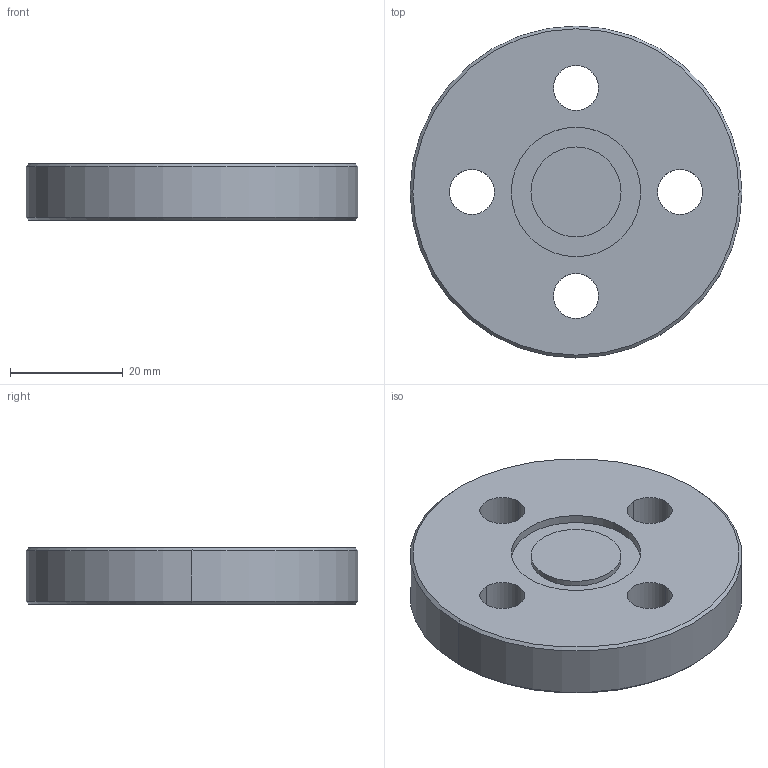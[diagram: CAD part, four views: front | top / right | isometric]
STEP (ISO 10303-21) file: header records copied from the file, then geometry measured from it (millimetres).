
FILE_DESCRIPTION (( 'STEP AP203' ), '1' );
FILE_NAME ('3D_R712_DN17.2_168071020.STEP', '2024-08-08T11:23:31', ( '' ), ( '' ), 'SwSTEP 2.0', 'SolidWorks 2024', '' );
FILE_SCHEMA (( 'CONFIG_CONTROL_DESIGN' ));
Length unit declared in the file: millimetre
Products named in the file (1): 3D_R712_DN17.2_168071020
Bounding box: 59 x 59 x 10 mm (x, y, z)
Volume: 24860.9 mm3; surface area: 7974.1 mm2
Topology: 1 solids, 1 shells, 22 faces, 50 edges, 32 vertices
Faces by surface type: cylinder 14, cone 4, plane 4
Entity records: 727 total; most frequent: DIRECTION 128, CARTESIAN_POINT 105, ORIENTED_EDGE 100, AXIS2_PLACEMENT_3D 55, EDGE_CURVE 50, EDGE_LOOP 32, CIRCLE 32, VERTEX_POINT 32
